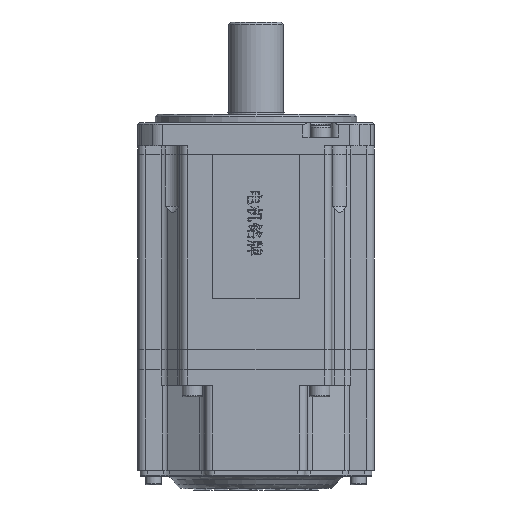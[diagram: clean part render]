
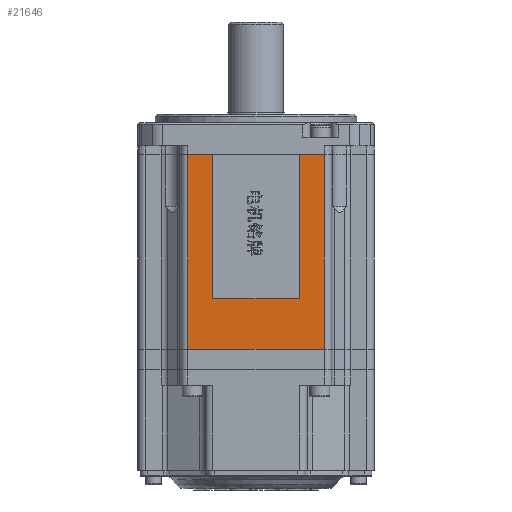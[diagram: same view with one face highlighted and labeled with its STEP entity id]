
A CAD part, front view. The second image highlights one B-rep face of the part: STEP entity #21646.
In plain terms, the highlighted planar face has unit normal (0, -1, 0).
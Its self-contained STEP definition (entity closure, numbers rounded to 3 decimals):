
#3206 = LINE ( 'NONE', #28780, #65987 ) ;
#3285 = VECTOR ( 'NONE', #28706, 1000. ) ;
#4380 = VERTEX_POINT ( 'NONE', #25970 ) ;
#6704 = CARTESIAN_POINT ( 'NONE',  ( -15., -41., 17.7 ) ) ;
#7801 = ORIENTED_EDGE ( 'NONE', *, *, #43155, .T. ) ;
#7805 = CARTESIAN_POINT ( 'NONE',  ( -15., -41., 17.7 ) ) ;
#9028 = EDGE_CURVE ( 'NONE', #74136, #70253, #3206, .T. ) ;
#9046 = CARTESIAN_POINT ( 'NONE',  ( -23.75, -41., 0. ) ) ;
#11384 = PLANE ( 'NONE',  #38755 ) ;
#12291 = CARTESIAN_POINT ( 'NONE',  ( -15., -41., 67.7 ) ) ;
#14313 = EDGE_CURVE ( 'NONE', #73720, #4380, #89824, .T. ) ;
#17657 = CARTESIAN_POINT ( 'NONE',  ( 23.75, -41., 1000. ) ) ;
#17813 = VERTEX_POINT ( 'NONE', #87458 ) ;
#18961 = CARTESIAN_POINT ( 'NONE',  ( 15., -41., 67.7 ) ) ;
#19003 = CARTESIAN_POINT ( 'NONE',  ( -23.75, -41., 67.7 ) ) ;
#20361 = CARTESIAN_POINT ( 'NONE',  ( -198.803, -41., 67.7 ) ) ;
#20639 = VERTEX_POINT ( 'NONE', #18961 ) ;
#21646 = ADVANCED_FACE ( 'NONE', ( #61702 ), #11384, .F. ) ;
#22453 = EDGE_CURVE ( 'NONE', #81208, #20639, #91407, .T. ) ;
#25970 = CARTESIAN_POINT ( 'NONE',  ( -15., -41., 17.7 ) ) ;
#28706 = DIRECTION ( 'NONE',  ( -1., 0., 0. ) ) ;
#28780 = CARTESIAN_POINT ( 'NONE',  ( -23.75, -41., 1000. ) ) ;
#29215 = VECTOR ( 'NONE', #79547, 1000. ) ;
#29772 = VECTOR ( 'NONE', #89280, 1000. ) ;
#30794 = ORIENTED_EDGE ( 'NONE', *, *, #59089, .T. ) ;
#31991 = LINE ( 'NONE', #6704, #78279 ) ;
#32621 = DIRECTION ( 'NONE',  ( 0., 1., 0. ) ) ;
#34113 = DIRECTION ( 'NONE',  ( 0., 0., 1. ) ) ;
#35881 = DIRECTION ( 'NONE',  ( 0., 0., -1. ) ) ;
#38436 = EDGE_CURVE ( 'NONE', #4380, #81208, #31991, .T. ) ;
#38700 = LINE ( 'NONE', #45604, #29772 ) ;
#38755 = AXIS2_PLACEMENT_3D ( 'NONE', #74784, #32621, #81854 ) ;
#39771 = DIRECTION ( 'NONE',  ( 0., 0., -1. ) ) ;
#40491 = ORIENTED_EDGE ( 'NONE', *, *, #9028, .T. ) ;
#40849 = DIRECTION ( 'NONE',  ( 1., 0., 0. ) ) ;
#42930 = LINE ( 'NONE', #43159, #3285 ) ;
#43155 = EDGE_CURVE ( 'NONE', #17813, #20639, #62735, .T. ) ;
#43159 = CARTESIAN_POINT ( 'NONE',  ( -198.803, -41., 67.7 ) ) ;
#43470 = CARTESIAN_POINT ( 'NONE',  ( 23.75, -41., 0. ) ) ;
#44869 = ORIENTED_EDGE ( 'NONE', *, *, #14313, .F. ) ;
#45181 = VECTOR ( 'NONE', #39771, 1000. ) ;
#45604 = CARTESIAN_POINT ( 'NONE',  ( -23.75, -41., 0. ) ) ;
#55069 = VECTOR ( 'NONE', #70188, 1000. ) ;
#55374 = CARTESIAN_POINT ( 'NONE',  ( 15., -41., 17.7 ) ) ;
#58462 = LINE ( 'NONE', #17657, #45181 ) ;
#59089 = EDGE_CURVE ( 'NONE', #70253, #59840, #38700, .T. ) ;
#59749 = EDGE_CURVE ( 'NONE', #73720, #74136, #42930, .T. ) ;
#59840 = VERTEX_POINT ( 'NONE', #43470 ) ;
#61443 = ORIENTED_EDGE ( 'NONE', *, *, #22453, .F. ) ;
#61702 = FACE_OUTER_BOUND ( 'NONE', #78544, .T. ) ;
#62735 = LINE ( 'NONE', #20361, #55069 ) ;
#65987 = VECTOR ( 'NONE', #35881, 1000. ) ;
#66981 = ORIENTED_EDGE ( 'NONE', *, *, #59749, .T. ) ;
#67449 = CARTESIAN_POINT ( 'NONE',  ( 15., -41., 17.7 ) ) ;
#68208 = VECTOR ( 'NONE', #34113, 1000. ) ;
#68724 = EDGE_CURVE ( 'NONE', #17813, #59840, #58462, .T. ) ;
#70188 = DIRECTION ( 'NONE',  ( -1., 0., 0. ) ) ;
#70253 = VERTEX_POINT ( 'NONE', #9046 ) ;
#73720 = VERTEX_POINT ( 'NONE', #12291 ) ;
#74136 = VERTEX_POINT ( 'NONE', #19003 ) ;
#74784 = CARTESIAN_POINT ( 'NONE',  ( -23.75, -41., 1000. ) ) ;
#78279 = VECTOR ( 'NONE', #40849, 1000. ) ;
#78544 = EDGE_LOOP ( 'NONE', ( #7801, #61443, #88910, #44869, #66981, #40491, #30794, #82348 ) ) ;
#79547 = DIRECTION ( 'NONE',  ( 0., 0., -1. ) ) ;
#81208 = VERTEX_POINT ( 'NONE', #67449 ) ;
#81854 = DIRECTION ( 'NONE',  ( 0., 0., 1. ) ) ;
#82348 = ORIENTED_EDGE ( 'NONE', *, *, #68724, .F. ) ;
#87458 = CARTESIAN_POINT ( 'NONE',  ( 23.75, -41., 67.7 ) ) ;
#88910 = ORIENTED_EDGE ( 'NONE', *, *, #38436, .F. ) ;
#89280 = DIRECTION ( 'NONE',  ( 1., 0., 0. ) ) ;
#89824 = LINE ( 'NONE', #7805, #29215 ) ;
#91407 = LINE ( 'NONE', #55374, #68208 ) ;
